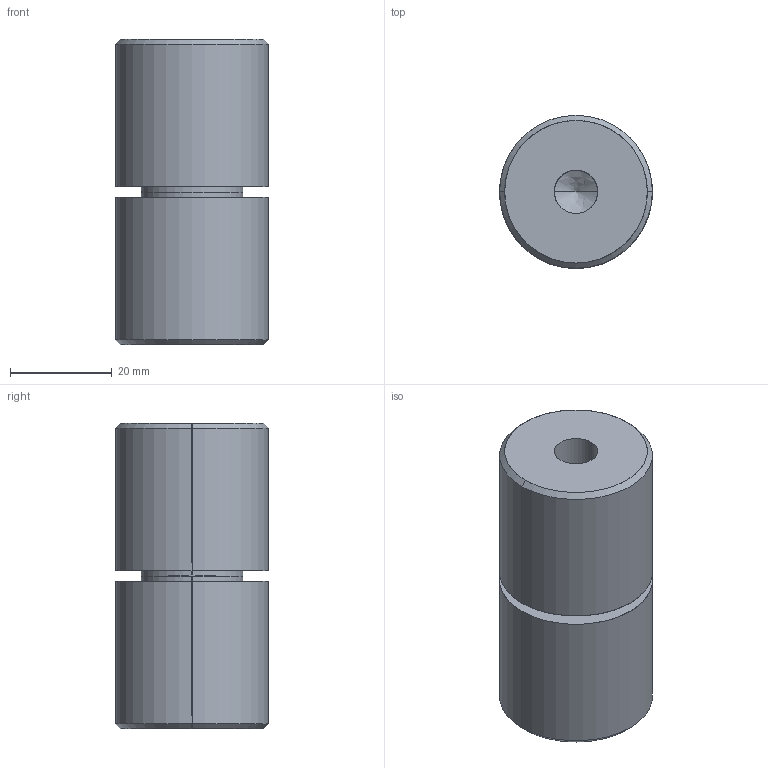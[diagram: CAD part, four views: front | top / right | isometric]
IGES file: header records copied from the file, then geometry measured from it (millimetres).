
Start section: SolidWorks IGES file using analytic representation for surfaces
Global section: file name: D:\Current\W1\TPN\TPN30-1\TPN30-1.IGS; native system: SolidWorks 2017; preprocessor: SolidWorks 2017; author: Ravi Kalvai; date: 240528.171059; units: millimetre
Bounding box: 30 x 30 x 60 mm (x, y, z)
Surface area: 10887.4 mm2 (no closed solid volume)
Topology: 0 solids, 0 shells, 32 faces, 584 edges, 582 vertices
Faces by surface type: revolution 24, bspline 8
